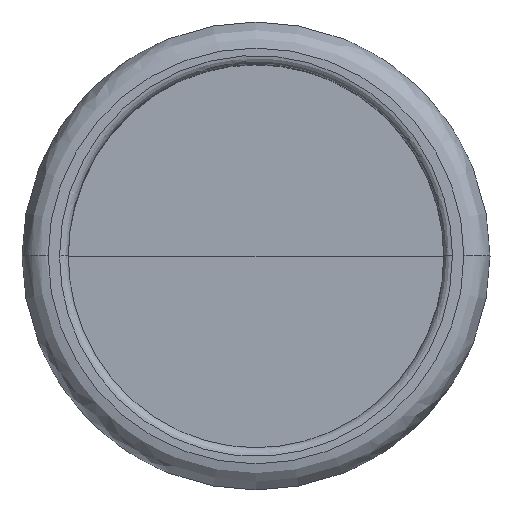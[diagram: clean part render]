
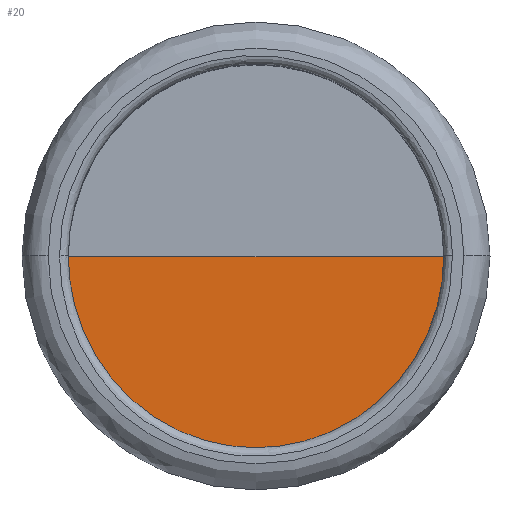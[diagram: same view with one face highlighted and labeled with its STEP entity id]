
A CAD part, top view. The second image highlights one B-rep face of the part: STEP entity #20.
In plain terms, the highlighted planar face has unit normal (0, 0, 1).
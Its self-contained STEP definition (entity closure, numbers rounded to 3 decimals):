
#20=ADVANCED_FACE('',(#34),#188,.T.);
#34=FACE_OUTER_BOUND('',#49,.T.);
#49=EDGE_LOOP('',(#76,#77,#78));
#76=ORIENTED_EDGE('',*,*,#130,.T.);
#77=ORIENTED_EDGE('',*,*,#117,.F.);
#78=ORIENTED_EDGE('',*,*,#118,.T.);
#117=EDGE_CURVE('',#176,#175,#136,.T.);
#118=EDGE_CURVE('',#176,#183,#141,.T.);
#130=EDGE_CURVE('',#183,#175,#147,.T.);
#136=B_SPLINE_CURVE_WITH_KNOTS('',1,(#813,#814),.UNSPECIFIED.,.F.,.F.,(2,
2),(513.,775.5),.UNSPECIFIED.);
#141=(
BOUNDED_CURVE()
B_SPLINE_CURVE(2,(#815,#816,#817,#818,#819),.UNSPECIFIED.,.F.,.F.)
B_SPLINE_CURVE_WITH_KNOTS((3,2,3),(0.,412.334,824.668),
 .UNSPECIFIED.)
CURVE()
GEOMETRIC_REPRESENTATION_ITEM()
RATIONAL_B_SPLINE_CURVE((1.,0.707,1.,0.707,1.))
REPRESENTATION_ITEM('')
);
#147=(
BOUNDED_CURVE()
B_SPLINE_CURVE(1,(#920,#921),.UNSPECIFIED.,.F.,.F.)
B_SPLINE_CURVE_WITH_KNOTS((2,2),(513.,775.5),.UNSPECIFIED.)
CURVE()
GEOMETRIC_REPRESENTATION_ITEM()
RATIONAL_B_SPLINE_CURVE((1.,1.))
REPRESENTATION_ITEM('')
);
#175=VERTEX_POINT('',#761);
#176=VERTEX_POINT('',#762);
#183=VERTEX_POINT('',#769);
#188=PLANE('',#290);
#290=AXIS2_PLACEMENT_3D('',#476,#306,$);
#306=DIRECTION('',(0.,0.,1.));
#476=CARTESIAN_POINT('',(1876.856,1691.,57.311));
#761=CARTESIAN_POINT('',(2165.658,1691.,57.311));
#762=CARTESIAN_POINT('',(1876.856,1691.,57.311));
#769=CARTESIAN_POINT('',(2454.461,1691.,57.311));
#813=CARTESIAN_POINT('',(1876.856,1691.,57.311));
#814=CARTESIAN_POINT('',(2165.658,1691.,57.311));
#815=CARTESIAN_POINT('',(1876.856,1691.,57.311));
#816=CARTESIAN_POINT('',(1876.856,1396.017,57.311));
#817=CARTESIAN_POINT('',(2165.658,1396.017,57.311));
#818=CARTESIAN_POINT('',(2454.461,1396.017,57.311));
#819=CARTESIAN_POINT('',(2454.461,1691.,57.311));
#920=CARTESIAN_POINT('',(2454.461,1691.,57.311));
#921=CARTESIAN_POINT('',(2165.658,1691.,57.311));
